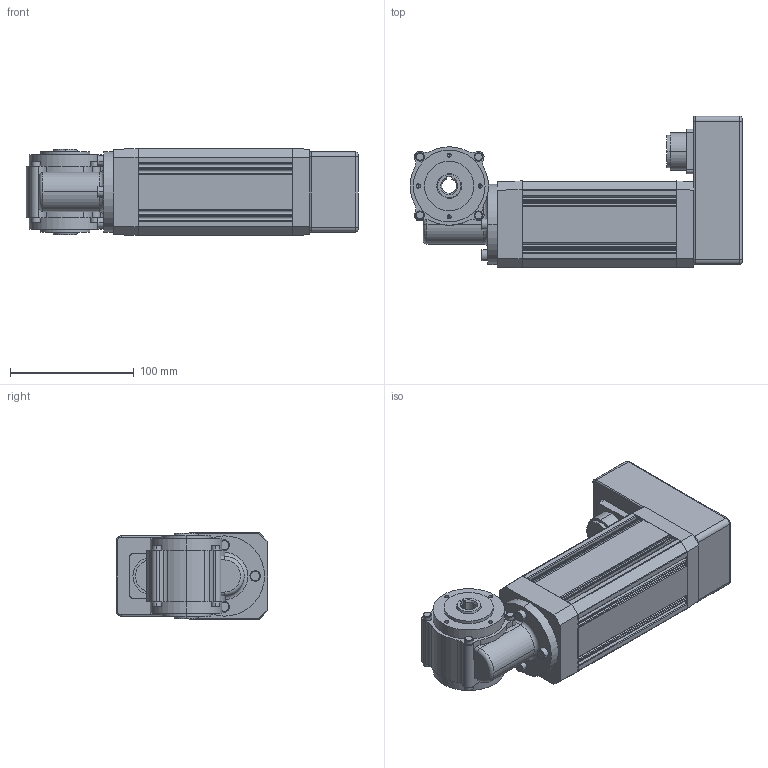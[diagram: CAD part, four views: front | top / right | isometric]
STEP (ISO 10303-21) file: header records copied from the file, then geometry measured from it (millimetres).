
FILE_DESCRIPTION(('OneSpaceDesigner STEP Export'),'2;1');
FILE_NAME('UECG313TH_GB12.stp','2009-09-14T13:45:47',(''),(''),'OneSpace Designer STEP processor (Jan. 2003) for AP214(CD)(Solid Model)','OneSpace Designer 12.01D 09-Jul-2004 (C) CoCreate Software GmbH','');
FILE_SCHEMA(('AUTOMOTIVE_DESIGN_CC2 {1 2 10303 214 -1 1 5 1}'));
Length unit declared in the file: millimetre
Products named in the file (2): UECG313TH_GB12_F
Assembly tree (1 placements, depth 2):
  UECG313TH_GB12_F
    UECG313TH_GB12_F
Bounding box: 268.75 x 122.6 x 70.2 mm (x, y, z)
Volume: 1298804.1 mm3; surface area: 116631.5 mm2
Topology: 1 solids, 1 shells, 385 faces, 1027 edges, 668 vertices
Faces by surface type: cylinder 194, plane 133, cone 48, torus 10
Entity records: 11739 total; most frequent: CARTESIAN_POINT 2712, ORIENTED_EDGE 2022, DIRECTION 1691, EDGE_CURVE 1011, VERTEX_POINT 668, AXIS2_PLACEMENT_3D 590, VECTOR 511, LINE 511
